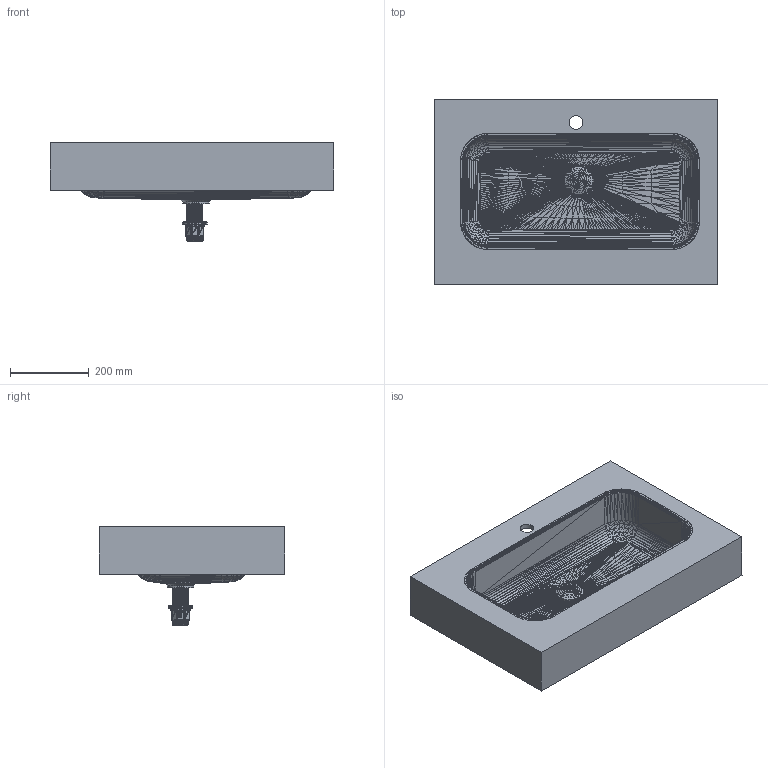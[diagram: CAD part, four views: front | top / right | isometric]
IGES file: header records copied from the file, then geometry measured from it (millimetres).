
Start section: Data from Parasolid IGES Translator 19.0.9, Copyright(c) 2006 Siemens PL M Software. All Rights Reserved.
Global section: file name: noorth-top-H 12 D 47,3 W 72_4798.igs; native system: By Siemens PLM Incorporated; preprocessor: XPlus GENERIC/IGES 19.0.9; author: Noname; organization: Noname; date: 20200603.092317; units: metre
Bounding box: 720 x 472 x 249.69 mm (x, y, z)
Volume: 4099579.2 mm3; surface area: 1524502.5 mm2
Topology: 1 solids, 1 shells, 21433 faces, 64295 edges, 64278 vertices
Faces by surface type: extrusion 21414, plane 14, cylinder 5
Full cylindrical faces by diameter (mm): 34.9 x1
